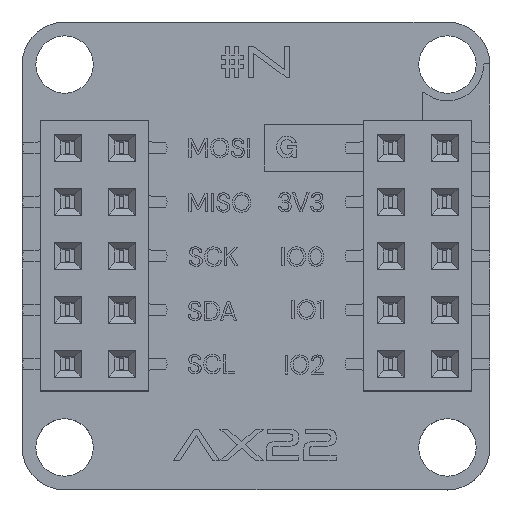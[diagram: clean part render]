
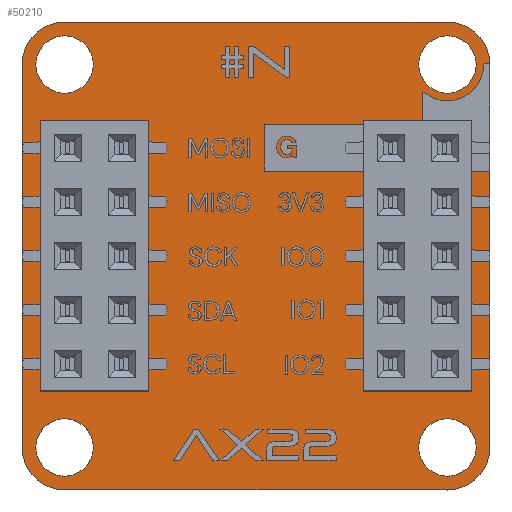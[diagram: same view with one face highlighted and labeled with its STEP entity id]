
A CAD part, top view. The second image highlights one B-rep face of the part: STEP entity #50210.
In plain terms, the highlighted planar face has unit normal (0, 0, 1).
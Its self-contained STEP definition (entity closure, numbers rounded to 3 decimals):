
#50009 = VERTEX_POINT('',#50010);
#50010 = CARTESIAN_POINT('',(6.994,11.003,1.51));
#50016 = EDGE_CURVE('',#50009,#50017,#50019,.T.);
#50017 = VERTEX_POINT('',#50018);
#50018 = CARTESIAN_POINT('',(8.994,11.003,1.51));
#50019 = LINE('',#50020,#50021);
#50020 = CARTESIAN_POINT('',(6.994,11.003,1.51));
#50021 = VECTOR('',#50022,1.);
#50022 = DIRECTION('',(1.,0.,0.));
#50049 = VERTEX_POINT('',#50050);
#50050 = CARTESIAN_POINT('',(-9.006,11.003,1.51));
#50056 = EDGE_CURVE('',#50049,#50009,#50057,.T.);
#50057 = LINE('',#50058,#50059);
#50058 = CARTESIAN_POINT('',(-9.006,11.003,1.51));
#50059 = VECTOR('',#50060,1.);
#50060 = DIRECTION('',(1.,0.,0.));
#50078 = EDGE_CURVE('',#50017,#50079,#50081,.T.);
#50079 = VERTEX_POINT('',#50080);
#50080 = CARTESIAN_POINT('',(10.994,9.003,1.51));
#50081 = CIRCLE('',#50082,2.);
#50082 = AXIS2_PLACEMENT_3D('',#50083,#50084,#50085);
#50083 = CARTESIAN_POINT('',(8.994,9.003,1.51));
#50084 = DIRECTION('',(0.,0.,-1.));
#50085 = DIRECTION('',(0.,1.,0.));
#50210 = ADVANCED_FACE('',(#50211,#50265,#50276,#50287,#50298),#50309,
  .T.);
#50211 = FACE_BOUND('',#50212,.T.);
#50212 = EDGE_LOOP('',(#50213,#50214,#50215,#50224,#50232,#50241,#50249,
    #50258,#50264));
#50213 = ORIENTED_EDGE('',*,*,#50016,.F.);
#50214 = ORIENTED_EDGE('',*,*,#50056,.F.);
#50215 = ORIENTED_EDGE('',*,*,#50216,.F.);
#50216 = EDGE_CURVE('',#50217,#50049,#50219,.T.);
#50217 = VERTEX_POINT('',#50218);
#50218 = CARTESIAN_POINT('',(-11.006,9.003,1.51));
#50219 = CIRCLE('',#50220,2.);
#50220 = AXIS2_PLACEMENT_3D('',#50221,#50222,#50223);
#50221 = CARTESIAN_POINT('',(-9.006,9.003,1.51));
#50222 = DIRECTION('',(0.,0.,-1.));
#50223 = DIRECTION('',(-1.,0.,-0.));
#50224 = ORIENTED_EDGE('',*,*,#50225,.F.);
#50225 = EDGE_CURVE('',#50226,#50217,#50228,.T.);
#50226 = VERTEX_POINT('',#50227);
#50227 = CARTESIAN_POINT('',(-11.006,-8.997,1.51));
#50228 = LINE('',#50229,#50230);
#50229 = CARTESIAN_POINT('',(-11.006,-8.997,1.51));
#50230 = VECTOR('',#50231,1.);
#50231 = DIRECTION('',(0.,1.,0.));
#50232 = ORIENTED_EDGE('',*,*,#50233,.F.);
#50233 = EDGE_CURVE('',#50234,#50226,#50236,.T.);
#50234 = VERTEX_POINT('',#50235);
#50235 = CARTESIAN_POINT('',(-9.006,-10.997,1.51));
#50236 = CIRCLE('',#50237,2.);
#50237 = AXIS2_PLACEMENT_3D('',#50238,#50239,#50240);
#50238 = CARTESIAN_POINT('',(-9.006,-8.997,1.51));
#50239 = DIRECTION('',(0.,0.,-1.));
#50240 = DIRECTION('',(0.,-1.,-0.));
#50241 = ORIENTED_EDGE('',*,*,#50242,.F.);
#50242 = EDGE_CURVE('',#50243,#50234,#50245,.T.);
#50243 = VERTEX_POINT('',#50244);
#50244 = CARTESIAN_POINT('',(8.994,-10.997,1.51));
#50245 = LINE('',#50246,#50247);
#50246 = CARTESIAN_POINT('',(8.994,-10.997,1.51));
#50247 = VECTOR('',#50248,1.);
#50248 = DIRECTION('',(-1.,0.,0.));
#50249 = ORIENTED_EDGE('',*,*,#50250,.F.);
#50250 = EDGE_CURVE('',#50251,#50243,#50253,.T.);
#50251 = VERTEX_POINT('',#50252);
#50252 = CARTESIAN_POINT('',(10.994,-8.997,1.51));
#50253 = CIRCLE('',#50254,2.);
#50254 = AXIS2_PLACEMENT_3D('',#50255,#50256,#50257);
#50255 = CARTESIAN_POINT('',(8.994,-8.997,1.51));
#50256 = DIRECTION('',(0.,0.,-1.));
#50257 = DIRECTION('',(1.,0.,0.));
#50258 = ORIENTED_EDGE('',*,*,#50259,.F.);
#50259 = EDGE_CURVE('',#50079,#50251,#50260,.T.);
#50260 = LINE('',#50261,#50262);
#50261 = CARTESIAN_POINT('',(10.994,9.003,1.51));
#50262 = VECTOR('',#50263,1.);
#50263 = DIRECTION('',(0.,-1.,0.));
#50264 = ORIENTED_EDGE('',*,*,#50078,.F.);
#50265 = FACE_BOUND('',#50266,.T.);
#50266 = EDGE_LOOP('',(#50267));
#50267 = ORIENTED_EDGE('',*,*,#50268,.T.);
#50268 = EDGE_CURVE('',#50269,#50269,#50271,.T.);
#50269 = VERTEX_POINT('',#50270);
#50270 = CARTESIAN_POINT('',(-9.006,-10.347,1.51));
#50271 = CIRCLE('',#50272,1.35);
#50272 = AXIS2_PLACEMENT_3D('',#50273,#50274,#50275);
#50273 = CARTESIAN_POINT('',(-9.006,-8.997,1.51));
#50274 = DIRECTION('',(-0.,0.,-1.));
#50275 = DIRECTION('',(-0.,-1.,0.));
#50276 = FACE_BOUND('',#50277,.T.);
#50277 = EDGE_LOOP('',(#50278));
#50278 = ORIENTED_EDGE('',*,*,#50279,.T.);
#50279 = EDGE_CURVE('',#50280,#50280,#50282,.T.);
#50280 = VERTEX_POINT('',#50281);
#50281 = CARTESIAN_POINT('',(8.994,-10.347,1.51));
#50282 = CIRCLE('',#50283,1.35);
#50283 = AXIS2_PLACEMENT_3D('',#50284,#50285,#50286);
#50284 = CARTESIAN_POINT('',(8.994,-8.997,1.51));
#50285 = DIRECTION('',(-0.,0.,-1.));
#50286 = DIRECTION('',(-0.,-1.,0.));
#50287 = FACE_BOUND('',#50288,.T.);
#50288 = EDGE_LOOP('',(#50289));
#50289 = ORIENTED_EDGE('',*,*,#50290,.T.);
#50290 = EDGE_CURVE('',#50291,#50291,#50293,.T.);
#50291 = VERTEX_POINT('',#50292);
#50292 = CARTESIAN_POINT('',(-9.006,7.653,1.51));
#50293 = CIRCLE('',#50294,1.35);
#50294 = AXIS2_PLACEMENT_3D('',#50295,#50296,#50297);
#50295 = CARTESIAN_POINT('',(-9.006,9.003,1.51));
#50296 = DIRECTION('',(-0.,0.,-1.));
#50297 = DIRECTION('',(-0.,-1.,0.));
#50298 = FACE_BOUND('',#50299,.T.);
#50299 = EDGE_LOOP('',(#50300));
#50300 = ORIENTED_EDGE('',*,*,#50301,.T.);
#50301 = EDGE_CURVE('',#50302,#50302,#50304,.T.);
#50302 = VERTEX_POINT('',#50303);
#50303 = CARTESIAN_POINT('',(8.994,7.653,1.51));
#50304 = CIRCLE('',#50305,1.35);
#50305 = AXIS2_PLACEMENT_3D('',#50306,#50307,#50308);
#50306 = CARTESIAN_POINT('',(8.994,9.003,1.51));
#50307 = DIRECTION('',(-0.,0.,-1.));
#50308 = DIRECTION('',(-0.,-1.,0.));
#50309 = PLANE('',#50310);
#50310 = AXIS2_PLACEMENT_3D('',#50311,#50312,#50313);
#50311 = CARTESIAN_POINT('',(0.,0.,1.51));
#50312 = DIRECTION('',(0.,0.,1.));
#50313 = DIRECTION('',(1.,0.,-0.));
